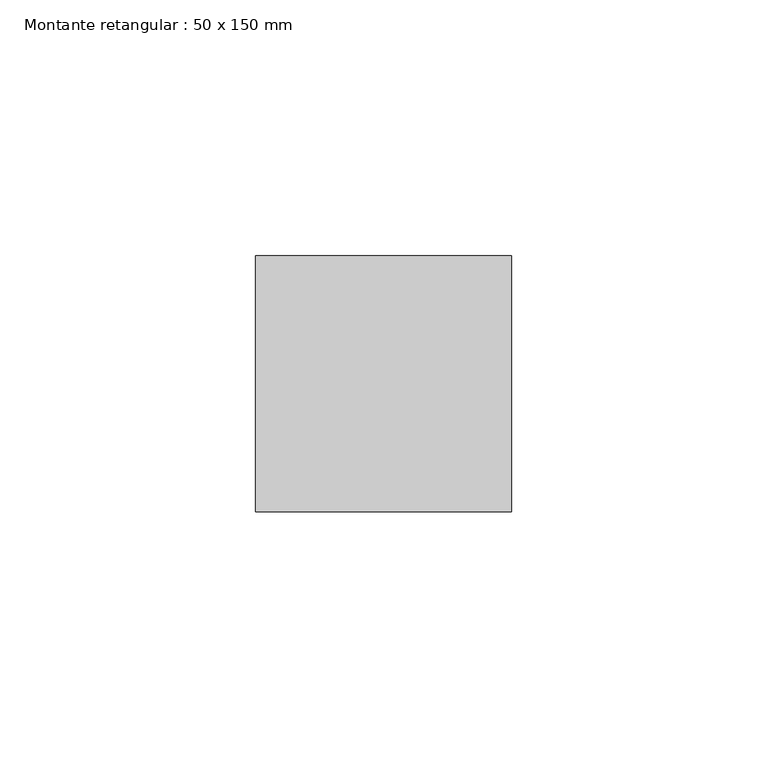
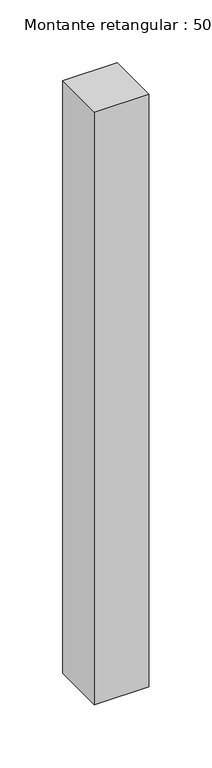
"""IFC4 building model written with IfcOpenShell, lengths in millimetres: member geometry, Montante retangular : 50 x 150 mm."""

from ifc_helpers import new_model, si_unit, frame, origin, place, context, project, spatial, polyline, outline, extrude, source, transform, mapped, element, save


def montante_retangular_50_x_150_mm_d1bcbd48(model_context):
    return source(origin(), model_context, "Body", "SweptSolid", [
        extrude(outline(polyline([(25.0, 25.0), (25.0, -25.0), (-25.0, -25.0), (-25.0, 25.0), (25.0, 25.0)])), frame((0.0, 0.0, -575.0004578), z_axis=(0.0, 0.0, 1.0), x_axis=(1.0, 0.0, 0.0)), (0.0, 0.0, 1.0), 575.0004578),
    ])


if __name__ == "__main__":
    model = new_model("IFC4")
    model_context = context("Model", 3, world=origin())
    ifc_project = project(units=[si_unit("LENGTHUNIT", "METRE", prefix="MILLI")], contexts=[model_context])
    site = spatial("IfcSite", under=ifc_project)
    building = spatial("IfcBuilding", under=site)
    placement = place(None, origin())
    montante_retangular_50_x_150_mm_shape = montante_retangular_50_x_150_mm_d1bcbd48(model_context)
    element("IfcMember", 1, ObjectType="Montante retangular : 50 x 150 mm", at=placement, inside=building, context=model_context, shape_type="MappedRepresentation", body=[
        mapped(montante_retangular_50_x_150_mm_shape, transform((0.0, 0.0, 0.0), x_axis=(1.0, 0.0, 0.0), y_axis=(0.0, 1.0, 0.0), z_axis=(0.0, 0.0, 1.0))),
    ])
    save(model, "model.ifc")
